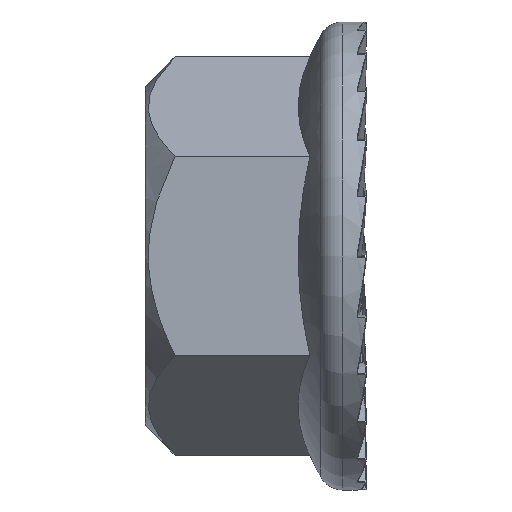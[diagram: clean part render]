
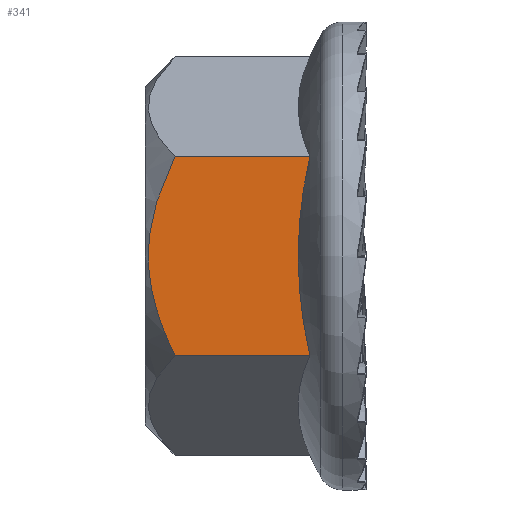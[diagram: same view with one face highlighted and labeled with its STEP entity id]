
A CAD part, left-side view. The second image highlights one B-rep face of the part: STEP entity #341.
In plain terms, the highlighted planar face has unit normal (-1, 0, 0).
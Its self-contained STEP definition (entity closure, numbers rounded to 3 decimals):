
#19 = CARTESIAN_POINT ( 'NONE',  ( -3.5, 4.3, -2.021 ) ) ;
#64 = ORIENTED_EDGE ( 'NONE', *, *, #12089, .F. ) ;
#136 = AXIS2_PLACEMENT_3D ( 'NONE', #10342, #1178, #11463 ) ;
#341 = ADVANCED_FACE ( 'NONE', ( #8266 ), #12261, .F. ) ;
#394 = CARTESIAN_POINT ( 'NONE',  ( -3.5, 1.2, -0.686 ) ) ;
#874 = CARTESIAN_POINT ( 'NONE',  ( -3.5, 3.994, -1.377 ) ) ;
#1178 = DIRECTION ( 'NONE',  ( 1., 0., 0. ) ) ;
#1391 = CARTESIAN_POINT ( 'NONE',  ( -3.5, 3.7, -2.021 ) ) ;
#1628 = VERTEX_POINT ( 'NONE', #2515 ) ;
#2072 = CARTESIAN_POINT ( 'NONE',  ( -3.5, 3.7, 2.021 ) ) ;
#2093 = CARTESIAN_POINT ( 'NONE',  ( -3.5, 3.7, 2.021 ) ) ;
#2302 = EDGE_CURVE ( 'NONE', #9425, #11407, #12079, .T. ) ;
#2515 = CARTESIAN_POINT ( 'NONE',  ( -3.5, 0.963, -2.021 ) ) ;
#2679 = CARTESIAN_POINT ( 'NONE',  ( -3.5, 3.857, -1.707 ) ) ;
#3480 = ORIENTED_EDGE ( 'NONE', *, *, #2302, .F. ) ;
#3690 = CARTESIAN_POINT ( 'NONE',  ( -3.5, 4.228, -0.353 ) ) ;
#4391 = CARTESIAN_POINT ( 'NONE',  ( -3.5, 1.118, 1.363 ) ) ;
#4433 = VECTOR ( 'NONE', #4854, 1000. ) ;
#4540 = ORIENTED_EDGE ( 'NONE', *, *, #10882, .T. ) ;
#4854 = DIRECTION ( 'NONE',  ( 0., -1., 0. ) ) ;
#4969 = EDGE_CURVE ( 'NONE', #12029, #1628, #9108, .T. ) ;
#5528 = CARTESIAN_POINT ( 'NONE',  ( -3.5, 0.963, -2.021 ) ) ;
#5710 = CARTESIAN_POINT ( 'NONE',  ( -3.5, 0.963, 2.021 ) ) ;
#6149 = CARTESIAN_POINT ( 'NONE',  ( -3.5, 4.042, 1.21 ) ) ;
#7008 = CARTESIAN_POINT ( 'NONE',  ( -3.5, 3.983, 1.378 ) ) ;
#7083 = CARTESIAN_POINT ( 'NONE',  ( -3.5, 3.778, 1.864 ) ) ;
#7765 = CARTESIAN_POINT ( 'NONE',  ( -3.5, 4.138, -0.871 ) ) ;
#7905 = B_SPLINE_CURVE_WITH_KNOTS ( 'NONE', 3,
 ( #11544, #4391, #9614, #394, #10679, #5528 ),
 .UNSPECIFIED., .F., .F.,
 ( 4, 2, 4 ),
 ( 0.005, 0.007, 0.009 ),
 .UNSPECIFIED. ) ;
#8024 = DIRECTION ( 'NONE',  ( 0., -1., 0. ) ) ;
#8085 = CARTESIAN_POINT ( 'NONE',  ( -3.5, 4.3, 2.021 ) ) ;
#8266 = FACE_OUTER_BOUND ( 'NONE', #11740, .T. ) ;
#9108 = LINE ( 'NONE', #19, #9593 ) ;
#9328 = ORIENTED_EDGE ( 'NONE', *, *, #4969, .T. ) ;
#9425 = VERTEX_POINT ( 'NONE', #2093 ) ;
#9593 = VECTOR ( 'NONE', #8024, 1000. ) ;
#9614 = CARTESIAN_POINT ( 'NONE',  ( -3.5, 1.2, 0.691 ) ) ;
#9782 = CARTESIAN_POINT ( 'NONE',  ( -3.5, 3.7, -2.021 ) ) ;
#10032 = CARTESIAN_POINT ( 'NONE',  ( -3.5, 3.851, 1.705 ) ) ;
#10167 = CARTESIAN_POINT ( 'NONE',  ( -3.5, 4.186, 0.702 ) ) ;
#10342 = CARTESIAN_POINT ( 'NONE',  ( -3.5, 4.3, -2.021 ) ) ;
#10679 = CARTESIAN_POINT ( 'NONE',  ( -3.5, 1.118, -1.36 ) ) ;
#10882 = EDGE_CURVE ( 'NONE', #9425, #12029, #13176, .T. ) ;
#11025 = CARTESIAN_POINT ( 'NONE',  ( -3.5, 4.242, -0.174 ) ) ;
#11170 = CARTESIAN_POINT ( 'NONE',  ( -3.5, 4.176, -0.7 ) ) ;
#11407 = VERTEX_POINT ( 'NONE', #5710 ) ;
#11463 = DIRECTION ( 'NONE',  ( 0., 0., -1. ) ) ;
#11544 = CARTESIAN_POINT ( 'NONE',  ( -3.5, 0.963, 2.021 ) ) ;
#11740 = EDGE_LOOP ( 'NONE', ( #3480, #4540, #9328, #64 ) ) ;
#12029 = VERTEX_POINT ( 'NONE', #1391 ) ;
#12079 = LINE ( 'NONE', #8085, #4433 ) ;
#12089 = EDGE_CURVE ( 'NONE', #11407, #1628, #7905, .T. ) ;
#12261 = PLANE ( 'NONE',  #136 ) ;
#12849 = CARTESIAN_POINT ( 'NONE',  ( -3.5, 4.241, 0.357 ) ) ;
#13176 = B_SPLINE_CURVE_WITH_KNOTS ( 'NONE', 3,
 ( #2072, #7083, #10032, #7008, #6149, #10167, #12849, #11025, #3690, #11170, #7765, #874, #2679, #9782 ),
 .UNSPECIFIED., .F., .F.,
 ( 4, 2, 2, 2, 2, 2, 4 ),
 ( 0.005, 0.006, 0.006, 0.007, 0.008, 0.008, 0.009 ),
 .UNSPECIFIED. ) ;
